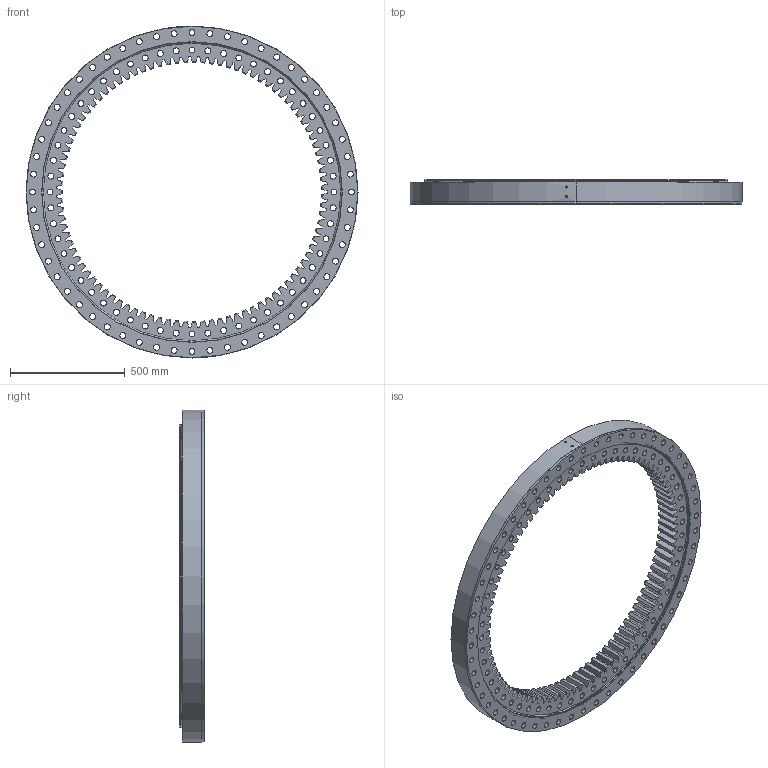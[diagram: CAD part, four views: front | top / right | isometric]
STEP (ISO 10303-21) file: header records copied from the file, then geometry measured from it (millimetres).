
FILE_DESCRIPTION (( 'STEP AP214' ), '1' );
FILE_NAME ('B2225-1-1446AA.STEP', '2022-11-24T07:06:37', ( '' ), ( '' ), 'SwSTEP 2.0', 'SolidWorks 2020', '' );
FILE_SCHEMA (( 'AUTOMOTIVE_DESIGN' ));
Length unit declared in the file: millimetre
Products named in the file (1): B2225-1-1446AA
Bounding box: 1446 x 105 x 1446 mm (x, y, z)
Volume: 51536144.9 mm3; surface area: 4253999.6 mm2
Topology: 4 solids, 4 shells, 861 faces, 2522 edges, 1680 vertices
Faces by surface type: cylinder 359, plane 304, cone 198
Entity records: 30257 total; most frequent: CARTESIAN_POINT 7104, ORIENTED_EDGE 5044, DIRECTION 4564, EDGE_CURVE 2522, AXIS2_PLACEMENT_3D 1766, VERTEX_POINT 1680, EDGE_LOOP 1112, LINE 1032
